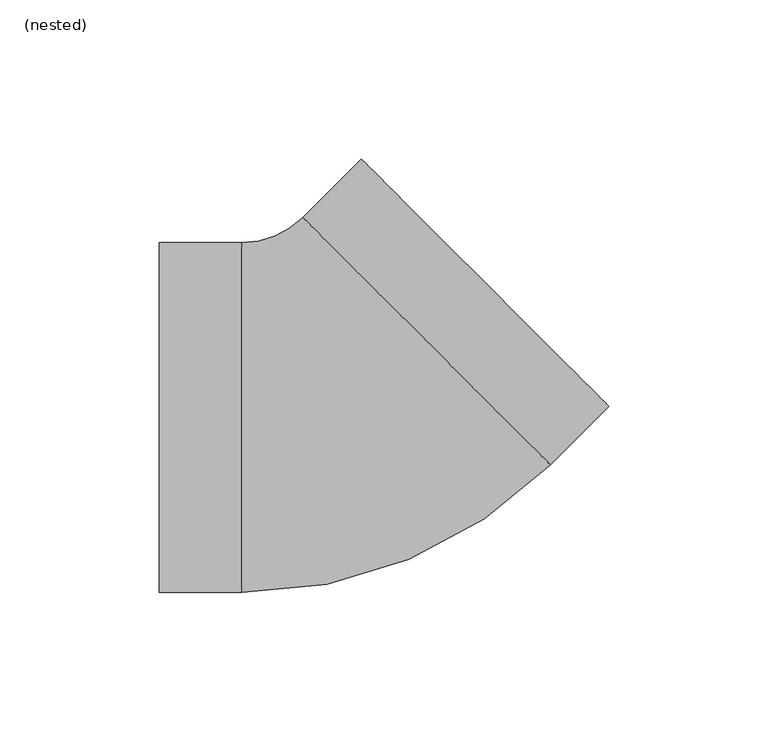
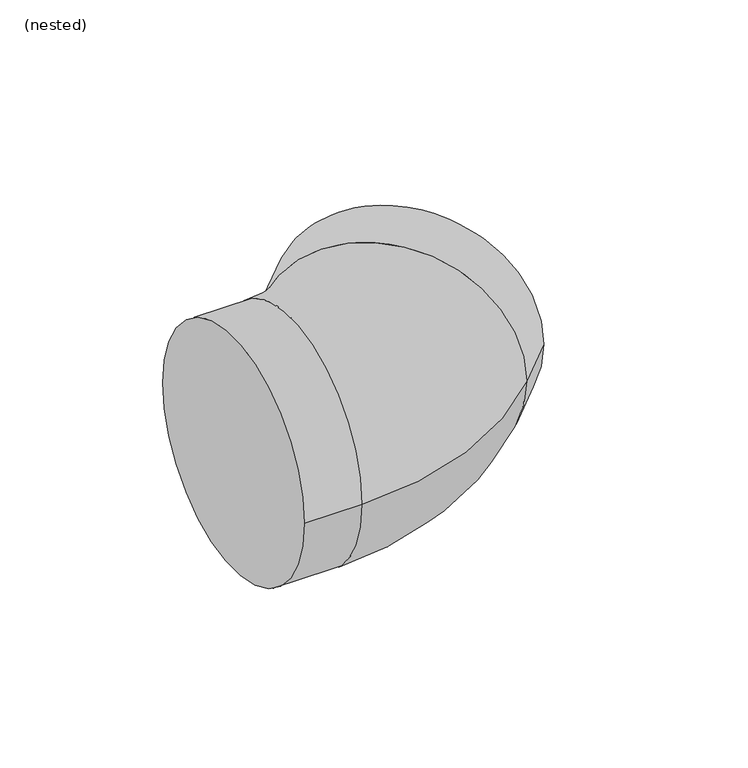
"""IFC4 building model written with IfcOpenShell, lengths in millimetres: pipe fitting geometry, NLRS_52_PIF_UN_PE bocht_SH_geb : (nested)."""

from ifc_helpers import new_model, si_unit, point, frame, origin, place, context, project, spatial, circle_curve, ellipse_curve, trimmed, source, transform, mapped, element, save
from ifc_brep_helpers import plane_surface, cylinder_surface, revolved_surface, advanced_brep


def nested_098f2a58(model_context):
    return source(origin(), model_context, "Body", "AdvancedBrep", [
        advanced_brep(
        [(-14.8492424, 62.9325035, 0.0), (-34.0, 55.0, 0.0), (-34.0, -55.0, 0.0), (62.9325035, -14.8492424, 0.0), (-60.0, -55.0, 0.0), (-60.0, 55.0, 0.0), (81.3172798, 3.5355339, 0.0), (3.5355339, 81.3172798, 0.0)],
        [
            (0, 1, circle_curve(frame((-34.0, 82.0832611, 0.0), z_axis=(0.0, 0.0, -1.0), x_axis=(0.0, -1.0, 0.0)), 27.0832611)),
            (1, 2, circle_curve(frame((-34.0, 0.0, 0.0), z_axis=(1.0, 0.0, 0.0), x_axis=(0.0, 1.0, 0.0)), 55.0)),
            (2, 3, circle_curve(frame((-34.0, 82.0832611, 0.0), z_axis=(0.0, 0.0, 1.0), x_axis=(0.0, -1.0, 0.0)), 137.0832611)),
            (3, 0, circle_curve(frame((24.0416306, 24.0416306, 0.0), z_axis=(-0.707106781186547, -0.707106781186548, 0.0), x_axis=(-0.707106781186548, 0.707106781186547, 0.0)), 55.0)),
            (2, 1, circle_curve(frame((-34.0, 0.0, 0.0), z_axis=(1.0, 0.0, 0.0), x_axis=(0.0, 1.0, 0.0)), 55.0)),
            (0, 3, circle_curve(frame((24.0416306, 24.0416306, 0.0), z_axis=(-0.7071067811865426, -0.7071067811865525, 0.0), x_axis=(-0.7071067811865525, 0.7071067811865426, 0.0)), 55.0)),
            (4, 5, circle_curve(frame((-60.0, 0.0, 0.0), z_axis=(-1.0, 0.0, 0.0), x_axis=(0.0, 1.0, 0.0)), 55.0)),
            (5, 4, circle_curve(frame((-60.0, 0.0, 0.0), z_axis=(-1.0, 0.0, 0.0), x_axis=(0.0, 1.0, 0.0)), 55.0)),
            (4, 2),
            (1, 5),
            (6, 7, circle_curve(frame((42.4264069, 42.4264069, 0.0), z_axis=(0.7071067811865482, 0.7071067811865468, 0.0), x_axis=(-0.7071067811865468, 0.7071067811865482, 0.0)), 55.0)),
            (7, 6, circle_curve(frame((42.4264069, 42.4264069, 0.0), z_axis=(0.7071067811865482, 0.7071067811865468, 0.0), x_axis=(-0.7071067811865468, 0.7071067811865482, 0.0)), 55.0)),
            (3, 6),
            (7, 0),
        ],
        [
            revolved_surface(trimmed(ellipse_curve(frame((-34.0, 0.0, 0.0), z_axis=(-1.0, 0.0, 0.0), x_axis=(0.0, 1.0, 0.0)), 55.0, 55.0), [point((-34.0, -55.0, 0.0))], [point((-34.0, 55.0, 0.0))], True, "CARTESIAN"), (-34.0, 82.0832611, 0.0), (0.0, 0.0, 1.0)),
            revolved_surface(trimmed(ellipse_curve(frame((-34.0, 0.0, 0.0), z_axis=(-1.0, 0.0, 0.0), x_axis=(0.0, 1.0, 0.0)), 55.0, 55.0), [point((-34.0, 55.0, 0.0))], [point((-34.0, -55.0, 0.0))], True, "CARTESIAN"), (-34.0, 82.0832611, 0.0), (0.0, 0.0, 1.0)),
            plane_surface(frame((-60.0, 0.0, 0.0), z_axis=(-1.0, 0.0, 0.0), x_axis=(0.0, 0.0, 1.0))),
            cylinder_surface(frame((-60.0, 0.0, 0.0), z_axis=(-1.0, 0.0, 0.0), x_axis=(0.0, 1.0, 0.0)), 55.0),
            plane_surface(frame((42.4264069, 42.4264069, 0.0), z_axis=(0.7071067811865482, 0.7071067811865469, 0.0), x_axis=(0.0, 0.0, 1.0))),
            cylinder_surface(frame((24.0416306, 24.0416306, 0.0), z_axis=(-0.7071067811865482, -0.7071067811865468, 0.0), x_axis=(-0.7071067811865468, 0.7071067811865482, 0.0)), 55.0),
        ],
        [
            (0, [[1, 2, 3, 4]]),
            (1, [[-3, 5, -1, 6]]),
            (2, [[7, 8]]),
            (3, [[-7, 9, -2, 10]]),
            (3, [[-8, -10, -5, -9]]),
            (4, [[11, 12]]),
            (5, [[-4, 13, -12, 14]]),
            (5, [[-6, -14, -11, -13]]),
        ],
    ),
    ])


if __name__ == "__main__":
    model = new_model("IFC4")
    model_context = context("Model", 3, world=origin())
    ifc_project = project(units=[si_unit("LENGTHUNIT", "METRE", prefix="MILLI")], contexts=[model_context])
    site = spatial("IfcSite", under=ifc_project)
    building = spatial("IfcBuilding", under=site)
    placement = place(None, origin())
    nested_shape = nested_098f2a58(model_context)
    element("IfcPipeFitting", 1, ObjectType="NLRS_52_PIF_UN_PE bocht_SH_geb : (nested)", at=placement, inside=building, context=model_context, shape_type="MappedRepresentation", body=[
        mapped(nested_shape, transform((0.0, 0.0, 0.0), x_axis=(1.0, 0.0, 0.0), y_axis=(0.0, 1.0, 0.0), z_axis=(0.0, 0.0, 1.0))),
    ])
    save(model, "model.ifc")
